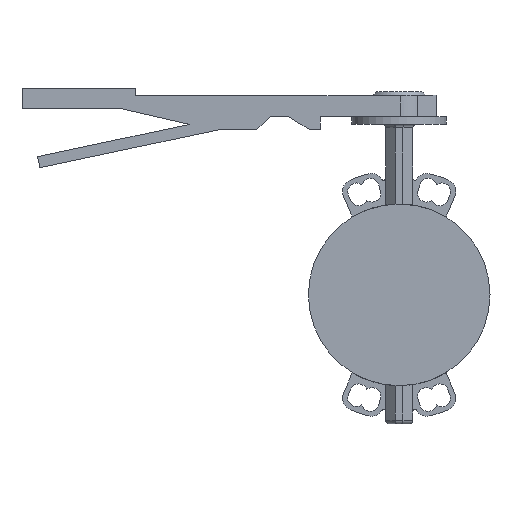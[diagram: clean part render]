
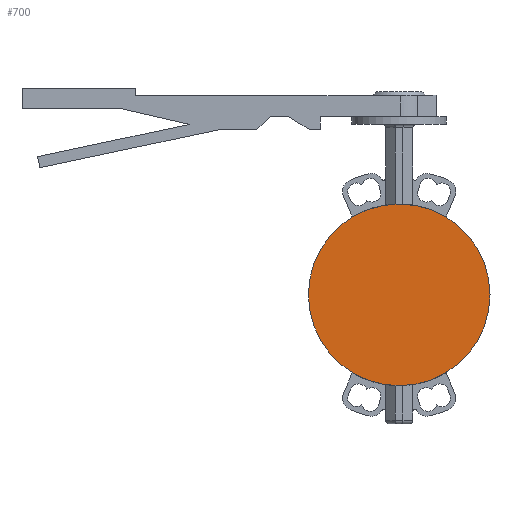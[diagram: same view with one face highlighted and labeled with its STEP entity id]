
A CAD part, left-side view. The second image highlights one B-rep face of the part: STEP entity #700.
In plain terms, the highlighted planar face has unit normal (-1, 0, 0).
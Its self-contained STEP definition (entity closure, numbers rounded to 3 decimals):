
#384=PLANE('',#4398);
#490=FACE_OUTER_BOUND('',#1020,.T.);
#700=ADVANCED_FACE('',(#490),#384,.F.);
#1020=EDGE_LOOP('',(#1439));
#1289=CIRCLE('',#4381,120.);
#1439=ORIENTED_EDGE('',*,*,#3000,.F.);
#2601=VERTEX_POINT('',#5654);
#3000=EDGE_CURVE('',#2601,#2601,#1289,.T.);
#4381=AXIS2_PLACEMENT_3D('',#5653,#4674,#4675);
#4398=AXIS2_PLACEMENT_3D('',#5735,#4738,#4739);
#4674=DIRECTION('',(1.,0.,0.));
#4675=DIRECTION('',(0.,1.,0.));
#4738=DIRECTION('',(1.,0.,0.));
#4739=DIRECTION('',(0.,0.,-1.));
#5653=CARTESIAN_POINT('',(-30.,0.,0.));
#5654=CARTESIAN_POINT('',(-30.,120.,0.));
#5735=CARTESIAN_POINT('',(-30.,0.,0.));
